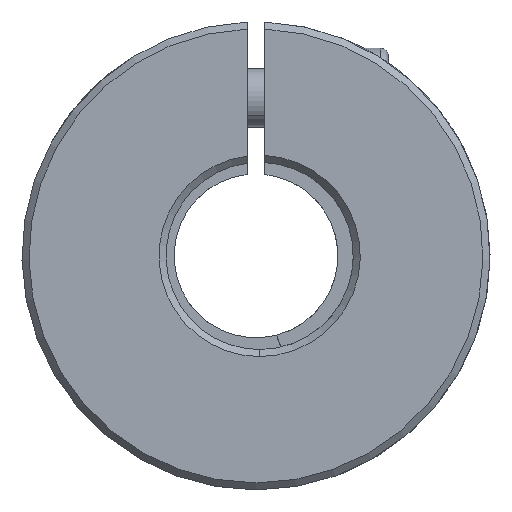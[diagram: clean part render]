
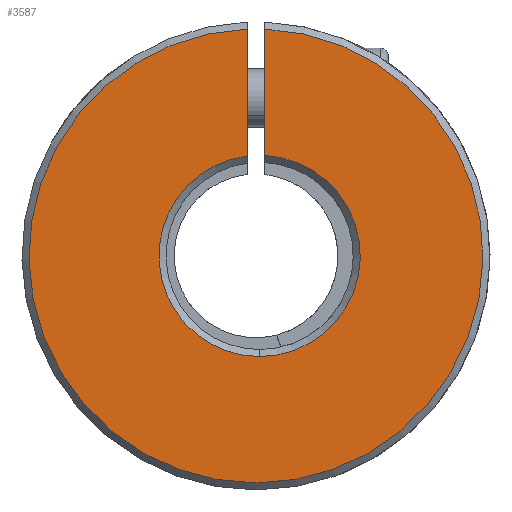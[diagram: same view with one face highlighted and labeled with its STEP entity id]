
A CAD part, front view. The second image highlights one B-rep face of the part: STEP entity #3587.
In plain terms, the highlighted planar face has unit normal (0, -1, 0).
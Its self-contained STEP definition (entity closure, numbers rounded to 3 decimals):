
#117 = DIRECTION ( 'NONE',  ( 0., 1., 0. ) ) ;
#236 = AXIS2_PLACEMENT_3D ( 'NONE', #1441, #117, #4642 ) ;
#424 = LINE ( 'NONE', #3942, #517 ) ;
#496 = ORIENTED_EDGE ( 'NONE', *, *, #2609, .T. ) ;
#509 = DIRECTION ( 'NONE',  ( 0., 0., 1. ) ) ;
#517 = VECTOR ( 'NONE', #1725, 1000. ) ;
#534 = VERTEX_POINT ( 'NONE', #2758 ) ;
#784 = FACE_OUTER_BOUND ( 'NONE', #1985, .T. ) ;
#937 = CARTESIAN_POINT ( 'NONE',  ( 0.314, -30., -8.6 ) ) ;
#1005 = CARTESIAN_POINT ( 'NONE',  ( 0.314, -30., 0. ) ) ;
#1228 = ORIENTED_EDGE ( 'NONE', *, *, #2269, .T. ) ;
#1365 = LINE ( 'NONE', #4113, #3620 ) ;
#1441 = CARTESIAN_POINT ( 'NONE',  ( 0.314, -30., 0. ) ) ;
#1586 = VERTEX_POINT ( 'NONE', #937 ) ;
#1662 = AXIS2_PLACEMENT_3D ( 'NONE', #2128, #4376, #2620 ) ;
#1725 = DIRECTION ( 'NONE',  ( 0., 0., -1. ) ) ;
#1732 = CARTESIAN_POINT ( 'NONE',  ( 0., -30., 0. ) ) ;
#1795 = VERTEX_POINT ( 'NONE', #4139 ) ;
#1985 = EDGE_LOOP ( 'NONE', ( #3205, #496, #1228, #2795, #5275 ) ) ;
#2128 = CARTESIAN_POINT ( 'NONE',  ( 0., -30., 0. ) ) ;
#2220 = DIRECTION ( 'NONE',  ( 0., -1., 0. ) ) ;
#2229 = EDGE_CURVE ( 'NONE', #1795, #534, #3158, .T. ) ;
#2269 = EDGE_CURVE ( 'NONE', #1586, #4379, #4009, .T. ) ;
#2609 = EDGE_CURVE ( 'NONE', #3692, #1586, #3998, .T. ) ;
#2620 = DIRECTION ( 'NONE',  ( 0., 0., 1. ) ) ;
#2758 = CARTESIAN_POINT ( 'NONE',  ( 0.75, -30., 19.385 ) ) ;
#2763 = AXIS2_PLACEMENT_3D ( 'NONE', #1005, #2825, #2764 ) ;
#2764 = DIRECTION ( 'NONE',  ( 0., 0., 1. ) ) ;
#2795 = ORIENTED_EDGE ( 'NONE', *, *, #4858, .T. ) ;
#2825 = DIRECTION ( 'NONE',  ( 0., 1., 0. ) ) ;
#3158 = CIRCLE ( 'NONE', #5585, 19.4 ) ;
#3205 = ORIENTED_EDGE ( 'NONE', *, *, #3680, .T. ) ;
#3587 = ADVANCED_FACE ( 'NONE', ( #784 ), #5334, .F. ) ;
#3620 = VECTOR ( 'NONE', #509, 1000. ) ;
#3680 = EDGE_CURVE ( 'NONE', #534, #3692, #424, .T. ) ;
#3692 = VERTEX_POINT ( 'NONE', #4021 ) ;
#3942 = CARTESIAN_POINT ( 'NONE',  ( 0.75, -30., -6. ) ) ;
#3998 = CIRCLE ( 'NONE', #236, 8.6 ) ;
#4009 = CIRCLE ( 'NONE', #2763, 8.6 ) ;
#4021 = CARTESIAN_POINT ( 'NONE',  ( 0.75, -30., 8.589 ) ) ;
#4028 = DIRECTION ( 'NONE',  ( 0., 0., 1. ) ) ;
#4113 = CARTESIAN_POINT ( 'NONE',  ( -0.75, -30., -6. ) ) ;
#4139 = CARTESIAN_POINT ( 'NONE',  ( -0.75, -30., 19.385 ) ) ;
#4376 = DIRECTION ( 'NONE',  ( 0., 1., 0. ) ) ;
#4379 = VERTEX_POINT ( 'NONE', #4466 ) ;
#4466 = CARTESIAN_POINT ( 'NONE',  ( -0.75, -30., 8.534 ) ) ;
#4642 = DIRECTION ( 'NONE',  ( 0., 0., 1. ) ) ;
#4858 = EDGE_CURVE ( 'NONE', #4379, #1795, #1365, .T. ) ;
#5275 = ORIENTED_EDGE ( 'NONE', *, *, #2229, .T. ) ;
#5334 = PLANE ( 'NONE',  #1662 ) ;
#5585 = AXIS2_PLACEMENT_3D ( 'NONE', #1732, #2220, #4028 ) ;
